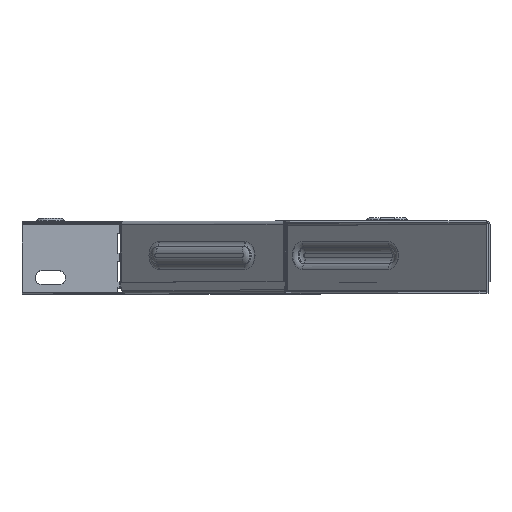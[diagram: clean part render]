
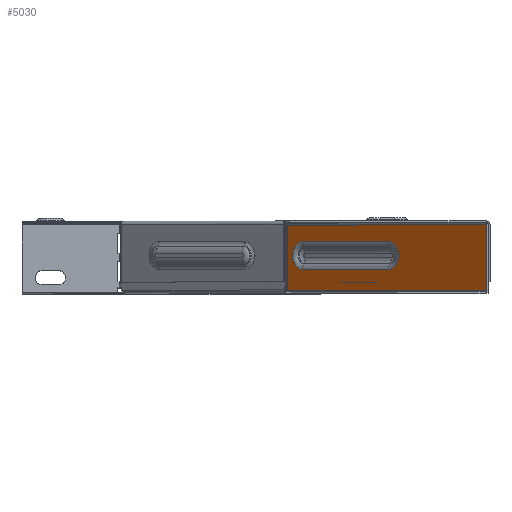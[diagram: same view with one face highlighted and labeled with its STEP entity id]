
A CAD part, top view. The second image highlights one B-rep face of the part: STEP entity #5030.
In plain terms, the highlighted planar face has unit normal (-0.707, 0, 0.707).
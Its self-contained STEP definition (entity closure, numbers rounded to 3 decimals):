
#4 = CARTESIAN_POINT ( 'NONE',  ( 44.434, 0., -44.434 ) ) ;
#102 = CIRCLE ( 'NONE', #6172, 6.917 ) ;
#542 = ORIENTED_EDGE ( 'NONE', *, *, #2246, .F. ) ;
#749 = CARTESIAN_POINT ( 'NONE',  ( 114.434, 33.2, 25.566 ) ) ;
#837 = DIRECTION ( 'NONE',  ( 0.707, 0., 0.707 ) ) ;
#1431 = CARTESIAN_POINT ( 'NONE',  ( -25.255, 1., -114.123 ) ) ;
#2245 = VERTEX_POINT ( 'NONE', #10143 ) ;
#2246 = EDGE_CURVE ( 'NONE', #6151, #13771, #7529, .T. ) ;
#2535 = EDGE_CURVE ( 'NONE', #2245, #11642, #102, .T. ) ;
#2659 = VERTEX_POINT ( 'NONE', #8751 ) ;
#2953 = ORIENTED_EDGE ( 'NONE', *, *, #2535, .F. ) ;
#3128 = EDGE_LOOP ( 'NONE', ( #2953, #7313, #542, #12231 ) ) ;
#3200 = VECTOR ( 'NONE', #4386, 1000. ) ;
#3556 = AXIS2_PLACEMENT_3D ( 'NONE', #6647, #12379, #10036 ) ;
#3844 = EDGE_CURVE ( 'NONE', #4638, #2659, #8941, .T. ) ;
#4035 = DIRECTION ( 'NONE',  ( -0.707, 0., -0.707 ) ) ;
#4304 = EDGE_CURVE ( 'NONE', #13771, #2245, #9499, .T. ) ;
#4386 = DIRECTION ( 'NONE',  ( 0., 1., 0. ) ) ;
#4390 = DIRECTION ( 'NONE',  ( 0.707, 0., 0.707 ) ) ;
#4442 = CARTESIAN_POINT ( 'NONE',  ( -25.255, 33.2, -114.123 ) ) ;
#4492 = CARTESIAN_POINT ( 'NONE',  ( 114.123, 0., 25.255 ) ) ;
#4638 = VERTEX_POINT ( 'NONE', #11115 ) ;
#4661 = DIRECTION ( 'NONE',  ( -0.707, 0., 0.707 ) ) ;
#4677 = FACE_BOUND ( 'NONE', #3128, .T. ) ;
#4997 = CARTESIAN_POINT ( 'NONE',  ( 23.221, 18.1, -65.648 ) ) ;
#5030 = ADVANCED_FACE ( 'NONE', ( #4677, #11682 ), #9349, .T. ) ;
#5384 = ORIENTED_EDGE ( 'NONE', *, *, #7325, .F. ) ;
#5543 = VECTOR ( 'NONE', #12376, 1000. ) ;
#5594 = CARTESIAN_POINT ( 'NONE',  ( 23.221, 11.183, -65.648 ) ) ;
#5953 = VERTEX_POINT ( 'NONE', #1431 ) ;
#6079 = EDGE_CURVE ( 'NONE', #11642, #6151, #10547, .T. ) ;
#6151 = VERTEX_POINT ( 'NONE', #8121 ) ;
#6172 = AXIS2_PLACEMENT_3D ( 'NONE', #4997, #10929, #12113 ) ;
#6380 = CARTESIAN_POINT ( 'NONE',  ( 114.434, 1., 25.566 ) ) ;
#6647 = CARTESIAN_POINT ( 'NONE',  ( 65.648, 18.1, -23.221 ) ) ;
#7007 = ORIENTED_EDGE ( 'NONE', *, *, #3844, .T. ) ;
#7313 = ORIENTED_EDGE ( 'NONE', *, *, #4304, .F. ) ;
#7325 = EDGE_CURVE ( 'NONE', #5953, #11546, #12897, .T. ) ;
#7441 = ORIENTED_EDGE ( 'NONE', *, *, #14571, .F. ) ;
#7529 = CIRCLE ( 'NONE', #3556, 6.917 ) ;
#7688 = CARTESIAN_POINT ( 'NONE',  ( 65.648, 25.017, -23.221 ) ) ;
#7867 = CARTESIAN_POINT ( 'NONE',  ( 44.434, 11.183, -44.434 ) ) ;
#8001 = LINE ( 'NONE', #749, #11143 ) ;
#8121 = CARTESIAN_POINT ( 'NONE',  ( 65.648, 11.183, -23.221 ) ) ;
#8721 = VECTOR ( 'NONE', #4035, 1000. ) ;
#8751 = CARTESIAN_POINT ( 'NONE',  ( 114.123, 33.2, 25.255 ) ) ;
#8941 = LINE ( 'NONE', #4492, #3200 ) ;
#9128 = EDGE_LOOP ( 'NONE', ( #7441, #7007, #9509, #5384 ) ) ;
#9349 = PLANE ( 'NONE',  #11209 ) ;
#9499 = LINE ( 'NONE', #12889, #13356 ) ;
#9509 = ORIENTED_EDGE ( 'NONE', *, *, #13936, .F. ) ;
#10036 = DIRECTION ( 'NONE',  ( 0., 1., 0. ) ) ;
#10143 = CARTESIAN_POINT ( 'NONE',  ( 23.221, 25.017, -65.648 ) ) ;
#10379 = DIRECTION ( 'NONE',  ( -0.707, 0., -0.707 ) ) ;
#10547 = LINE ( 'NONE', #7867, #14397 ) ;
#10929 = DIRECTION ( 'NONE',  ( -0.707, 0., 0.707 ) ) ;
#11115 = CARTESIAN_POINT ( 'NONE',  ( 114.123, 1., 25.255 ) ) ;
#11143 = VECTOR ( 'NONE', #4390, 1000. ) ;
#11209 = AXIS2_PLACEMENT_3D ( 'NONE', #4, #4661, #11822 ) ;
#11546 = VERTEX_POINT ( 'NONE', #4442 ) ;
#11642 = VERTEX_POINT ( 'NONE', #5594 ) ;
#11682 = FACE_OUTER_BOUND ( 'NONE', #9128, .T. ) ;
#11822 = DIRECTION ( 'NONE',  ( 0.707, 0., 0.707 ) ) ;
#12113 = DIRECTION ( 'NONE',  ( 0., 1., 0. ) ) ;
#12231 = ORIENTED_EDGE ( 'NONE', *, *, #6079, .F. ) ;
#12376 = DIRECTION ( 'NONE',  ( 0., 1., 0. ) ) ;
#12379 = DIRECTION ( 'NONE',  ( -0.707, 0., 0.707 ) ) ;
#12414 = LINE ( 'NONE', #6380, #8721 ) ;
#12889 = CARTESIAN_POINT ( 'NONE',  ( 44.434, 25.017, -44.434 ) ) ;
#12897 = LINE ( 'NONE', #13482, #5543 ) ;
#13356 = VECTOR ( 'NONE', #10379, 1000. ) ;
#13482 = CARTESIAN_POINT ( 'NONE',  ( -25.255, 0., -114.123 ) ) ;
#13771 = VERTEX_POINT ( 'NONE', #7688 ) ;
#13936 = EDGE_CURVE ( 'NONE', #11546, #2659, #8001, .T. ) ;
#14397 = VECTOR ( 'NONE', #837, 1000. ) ;
#14571 = EDGE_CURVE ( 'NONE', #4638, #5953, #12414, .T. ) ;
